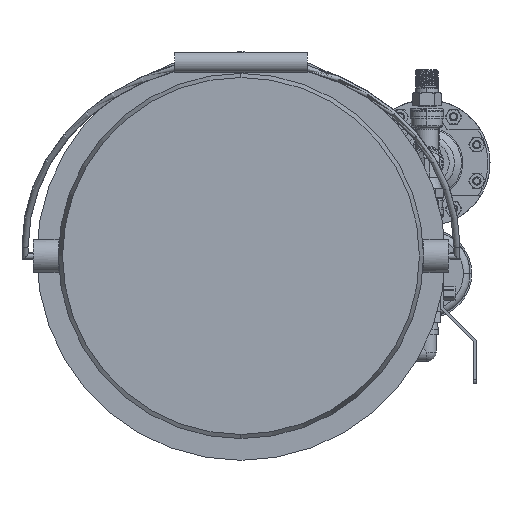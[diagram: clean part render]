
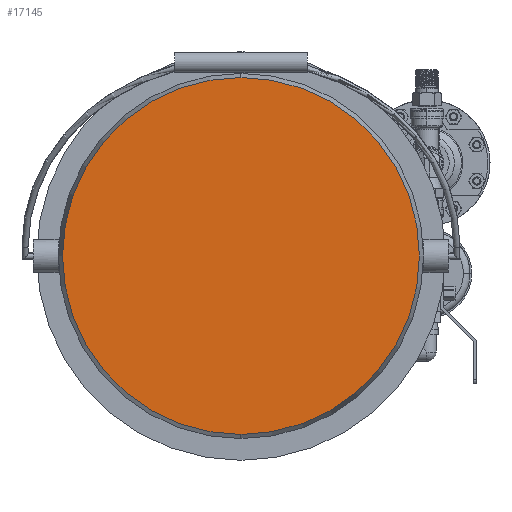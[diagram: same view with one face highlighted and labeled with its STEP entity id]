
A CAD part, front view. The second image highlights one B-rep face of the part: STEP entity #17145.
In plain terms, the highlighted planar face has unit normal (0, -1, 0).
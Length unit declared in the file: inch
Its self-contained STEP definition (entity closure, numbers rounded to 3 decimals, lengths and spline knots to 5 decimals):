
#16682=CARTESIAN_POINT('',(0.,-13.31,0.));
#16683=DIRECTION('',(0.,-1.,0.));
#16684=DIRECTION('',(0.,0.,1.));
#16685=AXIS2_PLACEMENT_3D('',#16682,#16683,#16684);
#16705=CARTESIAN_POINT('',(0.,-13.31,0.));
#16706=DIRECTION('',(0.,1.,0.));
#16707=DIRECTION('',(0.,0.,1.));
#16708=AXIS2_PLACEMENT_3D('',#16705,#16706,#16707);
#17072=CARTESIAN_POINT('',(0.,-13.31,5.375));
#17074=VERTEX_POINT('',#17072);
#17078=CARTESIAN_POINT('',(0.,-13.31,-5.375));
#17080=VERTEX_POINT('',#17078);
#17134=CARTESIAN_POINT('',(0.,-13.31,0.));
#17135=DIRECTION('',(0.,-1.,0.));
#17136=DIRECTION('',(0.,0.,-1.));
#17137=AXIS2_PLACEMENT_3D('',#17134,#17135,#17136);
#17138=PLANE('',#17137);
#17140=ORIENTED_EDGE('',*,*,#17139,.T.);
#17142=ORIENTED_EDGE('',*,*,#17141,.F.);
#17143=EDGE_LOOP('',(#17140,#17142));
#17144=FACE_OUTER_BOUND('',#17143,.F.);
#17145=ADVANCED_FACE('',(#17144),#17138,.T.);
#16686=CIRCLE('',#16685,5.375);
#16709=CIRCLE('',#16708,5.375);
#17139=EDGE_CURVE('',#17074,#17080,#16709,.T.);
#17141=EDGE_CURVE('',#17074,#17080,#16686,.T.);
